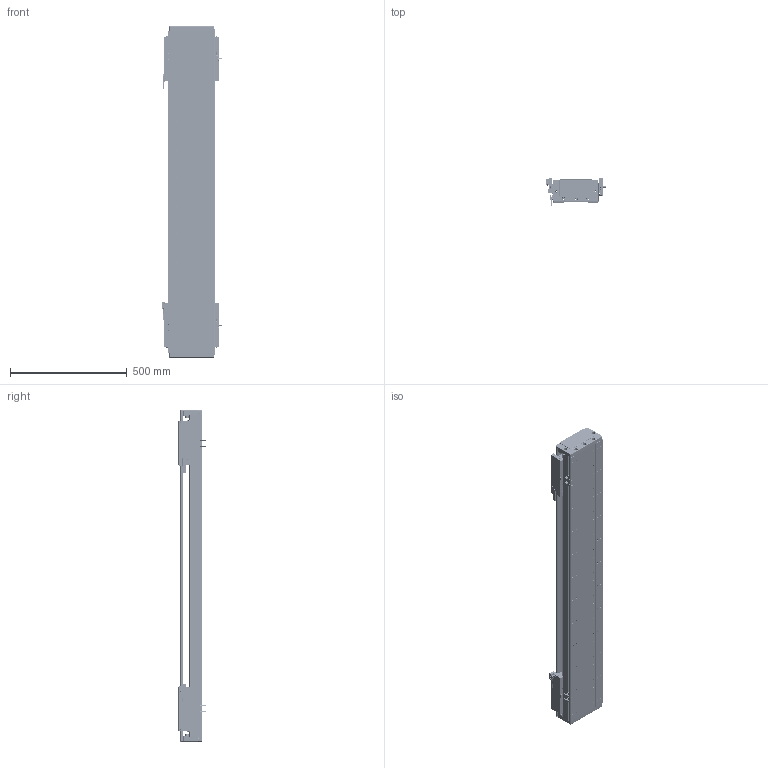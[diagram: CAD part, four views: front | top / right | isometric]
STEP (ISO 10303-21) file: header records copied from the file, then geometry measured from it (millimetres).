
FILE_DESCRIPTION (( 'STEP AP203' ), '1' );
FILE_NAME ('DA-C195-2-C2-T920-C010-0.2 眻盄萇儂.STEP', '2025-08-14T02:00:49', ( '' ), ( '' ), 'SwSTEP 2.0', 'SolidWorks 2019', '' );
FILE_SCHEMA (( 'CONFIG_CONTROL_DESIGN' ));
Length unit declared in the file: millimetre
Products named in the file (16): PM-Y65嫖萇羲壽郪璃; DA195-DG-H-00  端盖（压铸镂空版）; IU-CU195-L-00 菁釱(L1380); DA95-HXJ-00 遣喳砎蝶; DA-C195-2-C2-T920-C010-0.2 眻盄萇儂; LMT黍杅芛; 66156-0001-003-00 裔啣; DKW168-HXJ-ZJ-00 笢潔滅袉砎蝶; 66156-0001-005-00 光电感应片(默认); CU195-C2賑輸-俋楷; MS200 棠掑喜S315-T240; 葩璃 DA95-GT-T-00; DKW-GYP-ZJ-00 笢潔嫖萇覜茼え; IU-CU195-L 菁釱絳寢; PM-T45ㄗ侂狟ㄘ; DKW-KGZ-ZJ-00 中间光电开关支架
Assembly tree (28 placements, depth 3):
  DA-C195-2-C2-T920-C010-0.2 眻盄萇儂
    IU-CU195-L 菁釱絳寢
      IU-CU195-L-00 菁釱(L1380)
      葩璃 DA95-GT-T-00  x4
    LMT黍杅芛  x2
    MS200 棠掑喜S315-T240
    PM-T45ㄗ侂狟ㄘ  x4
    66156-0001-005-00 光电感应片(默认)  x2
    DA195-DG-H-00  端盖（压铸镂空版）  x2
    DA95-HXJ-00 遣喳砎蝶  x4
    PM-Y65嫖萇羲壽郪璃
    66156-0001-003-00 裔啣
    DKW168-HXJ-ZJ-00 笢潔滅袉砎蝶
    DKW-GYP-ZJ-00 笢潔嫖萇覜茼え
    DKW-KGZ-ZJ-00 中间光电开关支架
    CU195-C2賑輸-俋楷  x2
Bounding box: 258.2 x 115.6 x 1420 mm (x, y, z)
Volume: 10900517.5 mm3; surface area: 3048302.3 mm2
Topology: 106 solids, 242 shells, 7978 faces, 20160 edges, 12275 vertices
Faces by surface type: cylinder 3298, plane 2864, cone 946, bspline 718, torus 80, sphere 72
Entity records: 161223 total; most frequent: CARTESIAN_POINT 49768, ORIENTED_EDGE 23322, DIRECTION 22106, EDGE_CURVE 11661, AXIS2_PLACEMENT_3D 8075, VERTEX_POINT 7390, VECTOR 5956, LINE 5956
